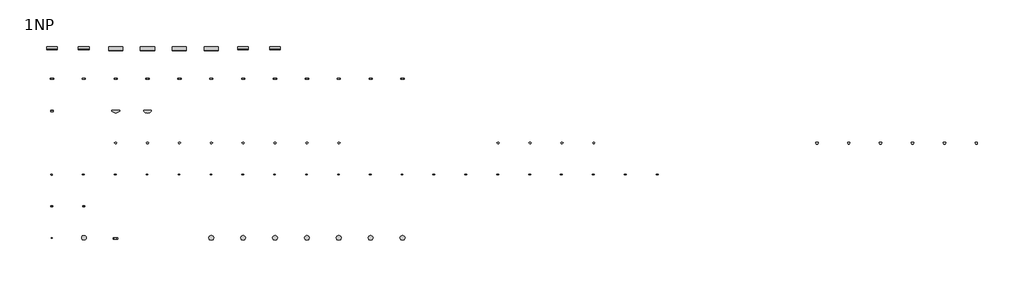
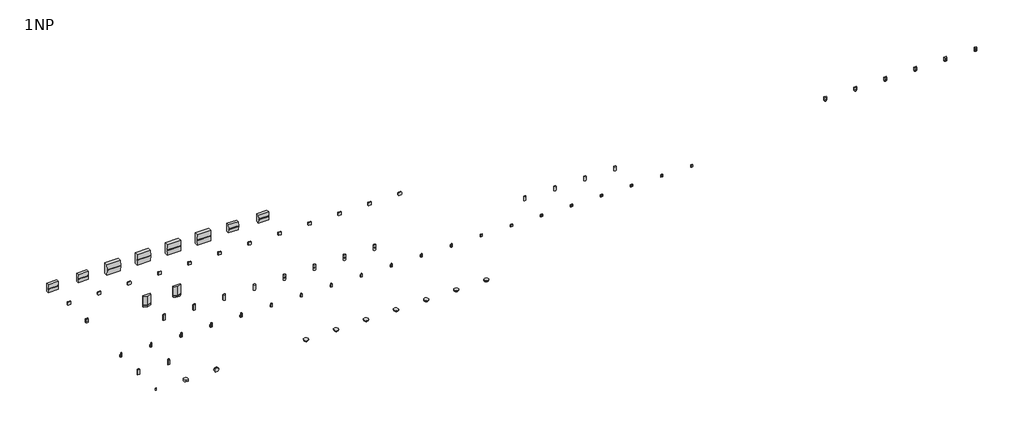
# One storey, incomplete: 61 proxies, 12 electric appliances.
"""IFC4 building model written with IfcOpenShell, lengths in millimetres."""

from ifc_helpers import new_model, si_unit, origin, place, context, project, spatial, transform, mapped, element, save
from components import ja_122pw_04791ad2, ja_122pb_a7b72314, ja_112p_35f2c3f1, electrical_equipment_dd4fa642, security_devices_6400f2da, security_devices_12a5800e, security_devices_a8dfe63a, ja_102kry_66e3460f, ja_110p_d42fbc9a, ja_110p_pet_71edda3a, ja_110st_ebcdd1e6, ja_111th_184f4ea3, ja_113a_4933cd80, ja_113m_4b11961d, ja_115m_564cd410, ja_121pw_7c5af470, ja_122e_b30d667c, ja_150m_5d9e9f14, ja_152shm_018121af, ja_154a_af2859ae, ja_154p_pet_a73beba8, ja_163a_e7fd9ec7, jb_111th_27b51d0b

model = new_model("IFC4")

# Units and contexts
model_context = context("Model", 3, world=origin())
ifc_project = project(units=[si_unit("LENGTHUNIT", "METRE", prefix="MILLI")], contexts=[model_context])

# Site, building, storey
site = spatial("IfcSite", under=ifc_project)
building = spatial("IfcBuilding", under=site)
storey = spatial("IfcBuildingStorey", under=building, Name="1NP", Elevation=0.0)

# Proxies
placement = place(None, origin())
ja_122pw_shape = ja_122pw_04791ad2(model_context)
element("IfcBuildingElementProxy", 1, Name="PIR detektory.CC : JA-162PW-AN", ObjectType="PIR detektory.CC : JA-162PW-AN", at=placement, inside=storey, context=model_context, shape_type="MappedRepresentation", body=[
    mapped(ja_122pw_shape, transform((1600.0, 2400.0, 0.0), x_axis=(1.0, 0.0, 0.0), y_axis=(0.0, 1.0, 0.0), z_axis=(0.0, 0.0, 1.0))),
])
element("IfcBuildingElementProxy", 2, Name="PIR detektory.CC : JA-122PW-AN", ObjectType="PIR detektory.CC : JA-122PW-AN", at=placement, inside=storey, context=model_context, shape_type="MappedRepresentation", body=[
    mapped(ja_122pw_shape, transform((3200.0, 2400.0, 0.0), x_axis=(1.0, 0.0, 0.0), y_axis=(0.0, 1.0, 0.0), z_axis=(0.0, 0.0, 1.0))),
])
ja_122pb_shape = ja_122pb_a7b72314(model_context)
element("IfcBuildingElementProxy", 3, Name="PIR detektory.CC : JA-162PB-AN", ObjectType="PIR detektory.CC : JA-162PB-AN", at=placement, inside=storey, context=model_context, shape_type="MappedRepresentation", body=[
    mapped(ja_122pb_shape, transform((4800.0, 2400.0, 0.0), x_axis=(1.0, 0.0, 0.0), y_axis=(0.0, 1.0, 0.0), z_axis=(0.0, 0.0, 1.0))),
])
element("IfcBuildingElementProxy", 4, Name="PIR detektory.CC : JA-122PB-AN", ObjectType="PIR detektory.CC : JA-122PB-AN", at=placement, inside=storey, context=model_context, shape_type="MappedRepresentation", body=[
    mapped(ja_122pb_shape, transform((6400.0, 2400.0, 0.0), x_axis=(1.0, 0.0, 0.0), y_axis=(0.0, 1.0, 0.0), z_axis=(0.0, 0.0, 1.0))),
])
ja_112p_shape = ja_112p_35f2c3f1(model_context)
element("IfcBuildingElementProxy", 5, Name="PIR detektory.CC : JA-152P-AN", ObjectType="PIR detektory.CC : JA-152P-AN", at=placement, inside=storey, context=model_context, shape_type="MappedRepresentation", body=[
    mapped(ja_112p_shape, transform((11200.0, 2400.0, 0.0), x_axis=(1.0, 0.0, 0.0), y_axis=(0.0, 1.0, 0.0), z_axis=(0.0, 0.0, 1.0))),
])
element("IfcBuildingElementProxy", 6, Name="PIR detektory.CC : JA-112P-AN", ObjectType="PIR detektory.CC : JA-112P-AN", at=placement, inside=storey, context=model_context, shape_type="MappedRepresentation", body=[
    mapped(ja_112p_shape, transform((12800.0, 2400.0, 0.0), x_axis=(1.0, 0.0, 0.0), y_axis=(0.0, 1.0, 0.0), z_axis=(0.0, 0.0, 1.0))),
])
electrical_equipment_shape = electrical_equipment_dd4fa642(model_context)
element("IfcBuildingElementProxy", 7, Name="Ústředny.CC : JA-103K-7AH", ObjectType="Ústředny.CC : JA-103K-7AH", at=placement, inside=storey, context=model_context, shape_type="MappedRepresentation", body=[
    mapped(electrical_equipment_shape, transform((4000.0, 4800.0, 0.0), x_axis=(1.0, 0.0, 0.0), y_axis=(0.0, 1.0, 0.0), z_axis=(0.0, 0.0, 1.0))),
])
security_devices_shape = security_devices_6400f2da(model_context)
element("IfcBuildingElementProxy", 8, Name="Environmentální detektory.CC : EI208W Horizontální", ObjectType="Environmentální detektory.CC : EI208W Horizontální", at=placement, inside=storey, context=model_context, shape_type="MappedRepresentation", body=[
    mapped(security_devices_shape, transform((800.0, 0.0, 0.0), x_axis=(1.0, 0.0, 0.0), y_axis=(0.0, 1.0, 0.0), z_axis=(0.0, 0.0, 1.0))),
])
security_devices_2_shape = security_devices_12a5800e(model_context)
element("IfcBuildingElementProxy", 9, Name="Environmentální detektory.CC : EI208W Vertikální", ObjectType="Environmentální detektory.CC : EI208W Vertikální", at=placement, inside=storey, context=model_context, shape_type="MappedRepresentation", body=[
    mapped(security_devices_2_shape, transform((1600.0, 0.0, 0.0), x_axis=(1.0, 0.0, 0.0), y_axis=(0.0, 1.0, 0.0), z_axis=(0.0, 0.0, 1.0))),
])
security_devices_3_shape = security_devices_a8dfe63a(model_context)
element("IfcBuildingElementProxy", 10, Name="Environmentální detektory.CC : JA-151ST-A-AN", ObjectType="Environmentální detektory.CC : JA-151ST-A-AN", at=placement, inside=storey, context=model_context, shape_type="MappedRepresentation", body=[
    mapped(security_devices_3_shape, transform((6400.0, 0.0, 0.0), x_axis=(1.0, 0.0, 0.0), y_axis=(0.0, 1.0, 0.0), z_axis=(0.0, 0.0, 1.0))),
])
element("IfcBuildingElementProxy", 11, Name="Environmentální detektory.CC : JA-151ST-A", ObjectType="Environmentální detektory.CC : JA-151ST-A", at=placement, inside=storey, context=model_context, shape_type="MappedRepresentation", body=[
    mapped(security_devices_3_shape, transform((7200.0, 0.0, 0.0), x_axis=(1.0, 0.0, 0.0), y_axis=(0.0, 1.0, 0.0), z_axis=(0.0, 0.0, 1.0))),
])
element("IfcBuildingElementProxy", 12, Name="Environmentální detektory.CC : JA-111ST-A-AN", ObjectType="Environmentální detektory.CC : JA-111ST-A-AN", at=placement, inside=storey, context=model_context, shape_type="MappedRepresentation", body=[
    mapped(security_devices_3_shape, transform((8000.0, 0.0, 0.0), x_axis=(1.0, 0.0, 0.0), y_axis=(0.0, 1.0, 0.0), z_axis=(0.0, 0.0, 1.0))),
])
element("IfcBuildingElementProxy", 13, Name="Environmentální detektory.CC : JA-111ST-A", ObjectType="Environmentální detektory.CC : JA-111ST-A", at=placement, inside=storey, context=model_context, shape_type="MappedRepresentation", body=[
    mapped(security_devices_3_shape, transform((8800.0, 0.0, 0.0), x_axis=(1.0, 0.0, 0.0), y_axis=(0.0, 1.0, 0.0), z_axis=(0.0, 0.0, 1.0))),
])
ja_102kry_shape = ja_102kry_66e3460f(model_context)
element("IfcBuildingElementProxy", 14, Name="Ústředny.CC : JA-102KRY", ObjectType="Ústředny.CC : JA-102KRY", at=placement, inside=storey, context=model_context, shape_type="MappedRepresentation", body=[
    mapped(ja_102kry_shape, transform((0.0, 4800.0, 0.0), x_axis=(1.0, 0.0, 0.0), y_axis=(0.0, 1.0, 0.0), z_axis=(0.0, 0.0, 1.0))),
])
element("IfcBuildingElementProxy", 15, Name="Ústředny.CC : JA-102KY", ObjectType="Ústředny.CC : JA-102KY", at=placement, inside=storey, context=model_context, shape_type="MappedRepresentation", body=[
    mapped(ja_102kry_shape, transform((800.0, 4800.0, 0.0), x_axis=(1.0, 0.0, 0.0), y_axis=(0.0, 1.0, 0.0), z_axis=(0.0, 0.0, 1.0))),
])
element("IfcBuildingElementProxy", 16, Name="Ústředny.CC : JA-103K", ObjectType="Ústředny.CC : JA-103K", at=placement, inside=storey, context=model_context, shape_type="MappedRepresentation", body=[
    mapped(ja_102kry_shape, transform((5600.0, 4800.0, 0.0), x_axis=(1.0, 0.0, 0.0), y_axis=(0.0, 1.0, 0.0), z_axis=(0.0, 0.0, 1.0))),
])
element("IfcBuildingElementProxy", 17, Name="Ústředny.CC : JA-103KR", ObjectType="Ústředny.CC : JA-103KR", at=placement, inside=storey, context=model_context, shape_type="MappedRepresentation", body=[
    mapped(ja_102kry_shape, transform((4800.0, 4800.0, 0.0), x_axis=(1.0, 0.0, 0.0), y_axis=(0.0, 1.0, 0.0), z_axis=(0.0, 0.0, 1.0))),
])
element("IfcBuildingElementProxy", 18, Name="Ústředny.CC : JA-107K", ObjectType="Ústředny.CC : JA-107K", at=placement, inside=storey, context=model_context, shape_type="MappedRepresentation", body=[
    mapped(electrical_equipment_shape, transform((3200.0, 4800.0, 0.0), x_axis=(1.0, 0.0, 0.0), y_axis=(0.0, 1.0, 0.0), z_axis=(0.0, 0.0, 1.0))),
])
element("IfcBuildingElementProxy", 19, Name="Ústředny.CC : JA-107KR", ObjectType="Ústředny.CC : JA-107KR", at=placement, inside=storey, context=model_context, shape_type="MappedRepresentation", body=[
    mapped(electrical_equipment_shape, transform((2400.0, 4800.0, 0.0), x_axis=(1.0, 0.0, 0.0), y_axis=(0.0, 1.0, 0.0), z_axis=(0.0, 0.0, 1.0))),
])
element("IfcBuildingElementProxy", 20, Name="Ústředny.CC : JA-108K", ObjectType="Ústředny.CC : JA-108K", at=placement, inside=storey, context=model_context, shape_type="MappedRepresentation", body=[
    mapped(electrical_equipment_shape, transform((1600.0, 4800.0, 0.0), x_axis=(1.0, 0.0, 0.0), y_axis=(0.0, 1.0, 0.0), z_axis=(0.0, 0.0, 1.0))),
])
ja_110p_shape = ja_110p_d42fbc9a(model_context)
element("IfcBuildingElementProxy", 21, Name="PIR detektory.CC : JA-110P", ObjectType="PIR detektory.CC : JA-110P", at=placement, inside=storey, context=model_context, shape_type="MappedRepresentation", body=[
    mapped(ja_110p_shape, transform((23200.0, 2400.0, 0.0), x_axis=(1.0, 0.0, 0.0), y_axis=(0.0, 1.0, 0.0), z_axis=(0.0, 0.0, 1.0))),
])
ja_110p_pet_shape = ja_110p_pet_71edda3a(model_context)
element("IfcBuildingElementProxy", 22, Name="PIR detektory.CC : JA-110P PET", ObjectType="PIR detektory.CC : JA-110P PET", at=placement, inside=storey, context=model_context, shape_type="MappedRepresentation", body=[
    mapped(ja_110p_pet_shape, transform((22400.0, 2400.0, 0.0), x_axis=(1.0, 0.0, 0.0), y_axis=(0.0, 1.0, 0.0), z_axis=(0.0, 0.0, 1.0))),
])
ja_110st_shape = ja_110st_ebcdd1e6(model_context)
element("IfcBuildingElementProxy", 23, Name="Environmentální detektory.CC : JA-110ST", ObjectType="Environmentální detektory.CC : JA-110ST", at=placement, inside=storey, context=model_context, shape_type="MappedRepresentation", body=[
    mapped(ja_110st_shape, transform((4800.0, 0.0, 0.0), x_axis=(1.0, 0.0, 0.0), y_axis=(0.0, 1.0, 0.0), z_axis=(0.0, 0.0, 1.0))),
])
ja_111th_shape = ja_111th_184f4ea3(model_context)
element("IfcBuildingElementProxy", 24, Name="Environmentální detektory.CC : JA-111TH", ObjectType="Environmentální detektory.CC : JA-111TH", at=placement, inside=storey, context=model_context, shape_type="MappedRepresentation", body=[
    mapped(ja_111th_shape, transform((0.0, 0.0, 0.0), x_axis=(1.0, 0.0, 0.0), y_axis=(0.0, 1.0, 0.0), z_axis=(0.0, 0.0, 1.0))),
])
element("IfcBuildingElementProxy", 25, Name="PIR detektory.CC : JA-112P", ObjectType="PIR detektory.CC : JA-112P", at=placement, inside=storey, context=model_context, shape_type="MappedRepresentation", body=[
    mapped(ja_112p_shape, transform((13600.0, 2400.0, 0.0), x_axis=(1.0, 0.0, 0.0), y_axis=(0.0, 1.0, 0.0), z_axis=(0.0, 0.0, 1.0))),
])
ja_113a_shape = ja_113a_4933cd80(model_context)
element("IfcBuildingElementProxy", 26, Name="Sirény.CC : JA-113A", ObjectType="Sirény.CC : JA-113A", at=placement, inside=storey, context=model_context, shape_type="MappedRepresentation", body=[
    mapped(ja_113a_shape, transform((2400.0, 3200.0, 0.0), x_axis=(1.0, 0.0, 0.0), y_axis=(0.0, 1.0, 0.0), z_axis=(0.0, 0.0, 1.0))),
])
ja_113m_shape = ja_113m_4b11961d(model_context)
element("IfcBuildingElementProxy", 27, Name="MG detektory.CC : JA-113M", ObjectType="MG detektory.CC : JA-113M", at=placement, inside=storey, context=model_context, shape_type="MappedRepresentation", body=[
    mapped(ja_113m_shape, transform((8800.0, 1600.0, 0.0), x_axis=(1.0, 0.0, 0.0), y_axis=(0.0, 1.0, 0.0), z_axis=(0.0, 0.0, 1.0))),
])
element("IfcBuildingElementProxy", 28, Name="MG detektory.CC : JA-113M-AN", ObjectType="MG detektory.CC : JA-113M-AN", at=placement, inside=storey, context=model_context, shape_type="MappedRepresentation", body=[
    mapped(ja_113m_shape, transform((7200.0, 1600.0, 0.0), x_axis=(1.0, 0.0, 0.0), y_axis=(0.0, 1.0, 0.0), z_axis=(0.0, 0.0, 1.0))),
])
element("IfcBuildingElementProxy", 29, Name="MG detektory.CC : JA-113M-GR", ObjectType="MG detektory.CC : JA-113M-GR", at=placement, inside=storey, context=model_context, shape_type="MappedRepresentation", body=[
    mapped(ja_113m_shape, transform((8000.0, 1600.0, 0.0), x_axis=(1.0, 0.0, 0.0), y_axis=(0.0, 1.0, 0.0), z_axis=(0.0, 0.0, 1.0))),
])
ja_115m_shape = ja_115m_564cd410(model_context)
element("IfcBuildingElementProxy", 30, Name="MG detektory.CC : JA-115M", ObjectType="MG detektory.CC : JA-115M", at=placement, inside=storey, context=model_context, shape_type="MappedRepresentation", body=[
    mapped(ja_115m_shape, transform((15200.0, 1600.0, 0.0), x_axis=(1.0, 0.0, 0.0), y_axis=(0.0, 1.0, 0.0), z_axis=(0.0, 0.0, 1.0))),
])
element("IfcBuildingElementProxy", 31, Name="MG detektory.CC : JA-115M-AN", ObjectType="MG detektory.CC : JA-115M-AN", at=placement, inside=storey, context=model_context, shape_type="MappedRepresentation", body=[
    mapped(ja_115m_shape, transform((13600.0, 1600.0, 0.0), x_axis=(1.0, 0.0, 0.0), y_axis=(0.0, 1.0, 0.0), z_axis=(0.0, 0.0, 1.0))),
])
element("IfcBuildingElementProxy", 32, Name="MG detektory.CC : JA-115M-BR", ObjectType="MG detektory.CC : JA-115M-BR", at=placement, inside=storey, context=model_context, shape_type="MappedRepresentation", body=[
    mapped(ja_115m_shape, transform((12800.0, 1600.0, 0.0), x_axis=(1.0, 0.0, 0.0), y_axis=(0.0, 1.0, 0.0), z_axis=(0.0, 0.0, 1.0))),
])
element("IfcBuildingElementProxy", 33, Name="MG detektory.CC : JA-115M-GR", ObjectType="MG detektory.CC : JA-115M-GR", at=placement, inside=storey, context=model_context, shape_type="MappedRepresentation", body=[
    mapped(ja_115m_shape, transform((14400.0, 1600.0, 0.0), x_axis=(1.0, 0.0, 0.0), y_axis=(0.0, 1.0, 0.0), z_axis=(0.0, 0.0, 1.0))),
])
ja_121pw_shape = ja_121pw_7c5af470(model_context)
element("IfcBuildingElementProxy", 34, Name="PIR detektory.CC : JA-121PW", ObjectType="PIR detektory.CC : JA-121PW", at=placement, inside=storey, context=model_context, shape_type="MappedRepresentation", body=[
    mapped(ja_121pw_shape, transform((20000.0, 2400.0, 0.0), x_axis=(1.0, 0.0, 0.0), y_axis=(0.0, 1.0, 0.0), z_axis=(0.0, 0.0, 1.0))),
])
ja_122e_shape = ja_122e_b30d667c(model_context)
element("IfcBuildingElementProxy", 35, Name="Klávesnice.CC : JA-122E", ObjectType="Klávesnice.CC : JA-122E", at=placement, inside=storey, context=model_context, shape_type="MappedRepresentation", body=[
    mapped(ja_122e_shape, transform((0.0, 800.0, 0.0), x_axis=(1.0, 0.0, 0.0), y_axis=(0.0, 1.0, 0.0), z_axis=(0.0, 0.0, 1.0))),
])
element("IfcBuildingElementProxy", 36, Name="PIR detektory.CC : JA-122PB", ObjectType="PIR detektory.CC : JA-122PB", at=placement, inside=storey, context=model_context, shape_type="MappedRepresentation", body=[
    mapped(ja_122pb_shape, transform((7200.0, 2400.0, 0.0), x_axis=(1.0, 0.0, 0.0), y_axis=(0.0, 1.0, 0.0), z_axis=(0.0, 0.0, 1.0))),
])
element("IfcBuildingElementProxy", 37, Name="PIR detektory.CC : JA-122PW", ObjectType="PIR detektory.CC : JA-122PW", at=placement, inside=storey, context=model_context, shape_type="MappedRepresentation", body=[
    mapped(ja_122pw_shape, transform((4000.0, 2400.0, 0.0), x_axis=(1.0, 0.0, 0.0), y_axis=(0.0, 1.0, 0.0), z_axis=(0.0, 0.0, 1.0))),
])
element("IfcBuildingElementProxy", 38, Name="Klávesnice.CC : JA-123E", ObjectType="Klávesnice.CC : JA-123E", at=placement, inside=storey, context=model_context, shape_type="MappedRepresentation", body=[
    mapped(ja_122e_shape, transform((800.0, 800.0, 0.0), x_axis=(1.0, 0.0, 0.0), y_axis=(0.0, 1.0, 0.0), z_axis=(0.0, 0.0, 1.0))),
])
ja_150m_shape = ja_150m_5d9e9f14(model_context)
element("IfcBuildingElementProxy", 39, Name="MG detektory.CC : JA-150M", ObjectType="MG detektory.CC : JA-150M", at=placement, inside=storey, context=model_context, shape_type="MappedRepresentation", body=[
    mapped(ja_150m_shape, transform((3200.0, 1600.0, 0.0), x_axis=(1.0, 0.0, 0.0), y_axis=(0.0, 1.0, 0.0), z_axis=(0.0, 0.0, 1.0))),
])
element("IfcBuildingElementProxy", 40, Name="MG detektory.CC : JA-150M-AN", ObjectType="MG detektory.CC : JA-150M-AN", at=placement, inside=storey, context=model_context, shape_type="MappedRepresentation", body=[
    mapped(ja_150m_shape, transform((1600.0, 1600.0, 0.0), x_axis=(1.0, 0.0, 0.0), y_axis=(0.0, 1.0, 0.0), z_axis=(0.0, 0.0, 1.0))),
])
element("IfcBuildingElementProxy", 41, Name="MG detektory.CC : JA-150M-GR", ObjectType="MG detektory.CC : JA-150M-GR", at=placement, inside=storey, context=model_context, shape_type="MappedRepresentation", body=[
    mapped(ja_150m_shape, transform((2400.0, 1600.0, 0.0), x_axis=(1.0, 0.0, 0.0), y_axis=(0.0, 1.0, 0.0), z_axis=(0.0, 0.0, 1.0))),
])
element("IfcBuildingElementProxy", 42, Name="MG detektory.CC : JA-150MB", ObjectType="MG detektory.CC : JA-150MB", at=placement, inside=storey, context=model_context, shape_type="MappedRepresentation", body=[
    mapped(ja_150m_shape, transform((800.0, 1600.0, 0.0), x_axis=(1.0, 0.0, 0.0), y_axis=(0.0, 1.0, 0.0), z_axis=(0.0, 0.0, 1.0))),
])
element("IfcBuildingElementProxy", 43, Name="Environmentální detektory.CC : JA-150ST", ObjectType="Environmentální detektory.CC : JA-150ST", at=placement, inside=storey, context=model_context, shape_type="MappedRepresentation", body=[
    mapped(ja_110st_shape, transform((4000.0, 0.0, 0.0), x_axis=(1.0, 0.0, 0.0), y_axis=(0.0, 1.0, 0.0), z_axis=(0.0, 0.0, 1.0))),
])
element("IfcBuildingElementProxy", 44, Name="Environmentální detektory.CC : JA-151ST", ObjectType="Environmentální detektory.CC : JA-151ST", at=placement, inside=storey, context=model_context, shape_type="MappedRepresentation", body=[
    mapped(ja_110st_shape, transform((5600.0, 0.0, 0.0), x_axis=(1.0, 0.0, 0.0), y_axis=(0.0, 1.0, 0.0), z_axis=(0.0, 0.0, 1.0))),
])
element("IfcBuildingElementProxy", 45, Name="PIR detektory.CC : JA-152P", ObjectType="PIR detektory.CC : JA-152P", at=placement, inside=storey, context=model_context, shape_type="MappedRepresentation", body=[
    mapped(ja_112p_shape, transform((12000.0, 2400.0, 0.0), x_axis=(1.0, 0.0, 0.0), y_axis=(0.0, 1.0, 0.0), z_axis=(0.0, 0.0, 1.0))),
])
ja_152shm_shape = ja_152shm_018121af(model_context)
element("IfcBuildingElementProxy", 46, Name="MG detektory.CC : JA-152SHM", ObjectType="MG detektory.CC : JA-152SHM", at=placement, inside=storey, context=model_context, shape_type="MappedRepresentation", body=[
    mapped(ja_152shm_shape, transform((0.0, 1600.0, 0.0), x_axis=(1.0, 0.0, 0.0), y_axis=(0.0, 1.0, 0.0), z_axis=(0.0, 0.0, 1.0))),
])
element("IfcBuildingElementProxy", 47, Name="MG detektory.CC : JA-153M", ObjectType="MG detektory.CC : JA-153M", at=placement, inside=storey, context=model_context, shape_type="MappedRepresentation", body=[
    mapped(ja_113m_shape, transform((6400.0, 1600.0, 0.0), x_axis=(1.0, 0.0, 0.0), y_axis=(0.0, 1.0, 0.0), z_axis=(0.0, 0.0, 1.0))),
])
element("IfcBuildingElementProxy", 48, Name="MG detektory.CC : JA-153M-AN", ObjectType="MG detektory.CC : JA-153M-AN", at=placement, inside=storey, context=model_context, shape_type="MappedRepresentation", body=[
    mapped(ja_113m_shape, transform((4800.0, 1600.0, 0.0), x_axis=(1.0, 0.0, 0.0), y_axis=(0.0, 1.0, 0.0), z_axis=(0.0, 0.0, 1.0))),
])
element("IfcBuildingElementProxy", 49, Name="MG detektory.CC : JA-153M-BR", ObjectType="MG detektory.CC : JA-153M-BR", at=placement, inside=storey, context=model_context, shape_type="MappedRepresentation", body=[
    mapped(ja_113m_shape, transform((4000.0, 1600.0, 0.0), x_axis=(1.0, 0.0, 0.0), y_axis=(0.0, 1.0, 0.0), z_axis=(0.0, 0.0, 1.0))),
])
element("IfcBuildingElementProxy", 50, Name="MG detektory.CC : JA-153M-GR", ObjectType="MG detektory.CC : JA-153M-GR", at=placement, inside=storey, context=model_context, shape_type="MappedRepresentation", body=[
    mapped(ja_113m_shape, transform((5600.0, 1600.0, 0.0), x_axis=(1.0, 0.0, 0.0), y_axis=(0.0, 1.0, 0.0), z_axis=(0.0, 0.0, 1.0))),
])
ja_154a_shape = ja_154a_af2859ae(model_context)
element("IfcBuildingElementProxy", 51, Name="Sirény.CC : JA-154A", ObjectType="Sirény.CC : JA-154A", at=placement, inside=storey, context=model_context, shape_type="MappedRepresentation", body=[
    mapped(ja_154a_shape, transform((0.0, 3200.0, 0.0), x_axis=(1.0, 0.0, 0.0), y_axis=(0.0, 1.0, 0.0), z_axis=(0.0, 0.0, 1.0))),
])
ja_154p_pet_shape = ja_154p_pet_a73beba8(model_context)
element("IfcBuildingElementProxy", 52, Name="PIR detektory.CC : JA-154P", ObjectType="PIR detektory.CC : JA-154P", at=placement, inside=storey, context=model_context, shape_type="MappedRepresentation", body=[
    mapped(ja_154p_pet_shape, transform((21600.0, 2400.0, 0.0), x_axis=(1.0, 0.0, 0.0), y_axis=(0.0, 1.0, 0.0), z_axis=(0.0, 0.0, 1.0))),
])
element("IfcBuildingElementProxy", 53, Name="PIR detektory.CC : JA-154P PET", ObjectType="PIR detektory.CC : JA-154P PET", at=placement, inside=storey, context=model_context, shape_type="MappedRepresentation", body=[
    mapped(ja_154p_pet_shape, transform((20800.0, 2400.0, 0.0), x_axis=(1.0, 0.0, 0.0), y_axis=(0.0, 1.0, 0.0), z_axis=(0.0, 0.0, 1.0))),
])
element("IfcBuildingElementProxy", 54, Name="MG detektory.CC : JA-155M", ObjectType="MG detektory.CC : JA-155M", at=placement, inside=storey, context=model_context, shape_type="MappedRepresentation", body=[
    mapped(ja_115m_shape, transform((12000.0, 1600.0, 0.0), x_axis=(1.0, 0.0, 0.0), y_axis=(0.0, 1.0, 0.0), z_axis=(0.0, 0.0, 1.0))),
])
element("IfcBuildingElementProxy", 55, Name="MG detektory.CC : JA-155M-AN", ObjectType="MG detektory.CC : JA-155M-AN", at=placement, inside=storey, context=model_context, shape_type="MappedRepresentation", body=[
    mapped(ja_115m_shape, transform((10400.0, 1600.0, 0.0), x_axis=(1.0, 0.0, 0.0), y_axis=(0.0, 1.0, 0.0), z_axis=(0.0, 0.0, 1.0))),
])
element("IfcBuildingElementProxy", 56, Name="MG detektory.CC : JA-155M-BR", ObjectType="MG detektory.CC : JA-155M-BR", at=placement, inside=storey, context=model_context, shape_type="MappedRepresentation", body=[
    mapped(ja_115m_shape, transform((9600.0, 1600.0, 0.0), x_axis=(1.0, 0.0, 0.0), y_axis=(0.0, 1.0, 0.0), z_axis=(0.0, 0.0, 1.0))),
])
element("IfcBuildingElementProxy", 57, Name="MG detektory.CC : JA-155M-GR", ObjectType="MG detektory.CC : JA-155M-GR", at=placement, inside=storey, context=model_context, shape_type="MappedRepresentation", body=[
    mapped(ja_115m_shape, transform((11200.0, 1600.0, 0.0), x_axis=(1.0, 0.0, 0.0), y_axis=(0.0, 1.0, 0.0), z_axis=(0.0, 0.0, 1.0))),
])
element("IfcBuildingElementProxy", 58, Name="PIR detektory.CC : JA-161PW", ObjectType="PIR detektory.CC : JA-161PW", at=placement, inside=storey, context=model_context, shape_type="MappedRepresentation", body=[
    mapped(ja_121pw_shape, transform((19200.0, 2400.0, 0.0), x_axis=(1.0, 0.0, 0.0), y_axis=(0.0, 1.0, 0.0), z_axis=(0.0, 0.0, 1.0))),
])
element("IfcBuildingElementProxy", 59, Name="PIR detektory.CC : JA-162PB", ObjectType="PIR detektory.CC : JA-162PB", at=placement, inside=storey, context=model_context, shape_type="MappedRepresentation", body=[
    mapped(ja_122pb_shape, transform((5600.0, 2400.0, 0.0), x_axis=(1.0, 0.0, 0.0), y_axis=(0.0, 1.0, 0.0), z_axis=(0.0, 0.0, 1.0))),
])
element("IfcBuildingElementProxy", 60, Name="PIR detektory.CC : JA-162PW", ObjectType="PIR detektory.CC : JA-162PW", at=placement, inside=storey, context=model_context, shape_type="MappedRepresentation", body=[
    mapped(ja_122pw_shape, transform((2400.0, 2400.0, 0.0), x_axis=(1.0, 0.0, 0.0), y_axis=(0.0, 1.0, 0.0), z_axis=(0.0, 0.0, 1.0))),
])
ja_163a_shape = ja_163a_e7fd9ec7(model_context)
element("IfcBuildingElementProxy", 61, Name="Sirény.CC : JA-163A", ObjectType="Sirény.CC : JA-163A", at=placement, inside=storey, context=model_context, shape_type="MappedRepresentation", body=[
    mapped(ja_163a_shape, transform((1600.0, 3200.0, 0.0), x_axis=(1.0, 0.0, 0.0), y_axis=(0.0, 1.0, 0.0), z_axis=(0.0, 0.0, 1.0))),
])

# Electric appliances
jb_111th_shape = jb_111th_27b51d0b(model_context)
element("IfcElectricAppliance", 62, ObjectType="Termostaty.CC : JB-151TH-AN", at=placement, inside=storey, context=model_context, shape_type="MappedRepresentation", body=[
    mapped(jb_111th_shape, transform((0.0, 4000.0, 0.0), x_axis=(1.0, 0.0, 0.0), y_axis=(0.0, 1.0, 0.0), z_axis=(0.0, 0.0, 1.0))),
])
element("IfcElectricAppliance", 63, ObjectType="Termostaty.CC : JB-151TP-AN", at=placement, inside=storey, context=model_context, shape_type="MappedRepresentation", body=[
    mapped(jb_111th_shape, transform((1600.0, 4000.0, 0.0), x_axis=(1.0, 0.0, 0.0), y_axis=(0.0, 1.0, 0.0), z_axis=(0.0, 0.0, 1.0))),
])
element("IfcElectricAppliance", 64, ObjectType="Termostaty.CC : JB-112TH-AN", at=placement, inside=storey, context=model_context, shape_type="MappedRepresentation", body=[
    mapped(jb_111th_shape, transform((3200.0, 4000.0, 0.0), x_axis=(1.0, 0.0, 0.0), y_axis=(0.0, 1.0, 0.0), z_axis=(0.0, 0.0, 1.0))),
])
element("IfcElectricAppliance", 65, ObjectType="Termostaty.CC : JB-112TP-AN", at=placement, inside=storey, context=model_context, shape_type="MappedRepresentation", body=[
    mapped(jb_111th_shape, transform((4800.0, 4000.0, 0.0), x_axis=(1.0, 0.0, 0.0), y_axis=(0.0, 1.0, 0.0), z_axis=(0.0, 0.0, 1.0))),
])
element("IfcElectricAppliance", 66, ObjectType="Termostaty.CC : JB-111TH-AN", at=placement, inside=storey, context=model_context, shape_type="MappedRepresentation", body=[
    mapped(jb_111th_shape, transform((6400.0, 4000.0, 0.0), x_axis=(1.0, 0.0, 0.0), y_axis=(0.0, 1.0, 0.0), z_axis=(0.0, 0.0, 1.0))),
])
element("IfcElectricAppliance", 67, ObjectType="Termostaty.CC : JB-111TP-AN", at=placement, inside=storey, context=model_context, shape_type="MappedRepresentation", body=[
    mapped(jb_111th_shape, transform((8000.0, 4000.0, 0.0), x_axis=(1.0, 0.0, 0.0), y_axis=(0.0, 1.0, 0.0), z_axis=(0.0, 0.0, 1.0))),
])
element("IfcElectricAppliance", 68, ObjectType="Termostaty.CC : JB-111TH", at=placement, inside=storey, context=model_context, shape_type="MappedRepresentation", body=[
    mapped(jb_111th_shape, transform((7200.0, 4000.0, 0.0), x_axis=(1.0, 0.0, 0.0), y_axis=(0.0, 1.0, 0.0), z_axis=(0.0, 0.0, 1.0))),
])
element("IfcElectricAppliance", 69, ObjectType="Termostaty.CC : JB-111TP", at=placement, inside=storey, context=model_context, shape_type="MappedRepresentation", body=[
    mapped(jb_111th_shape, transform((8800.0, 4000.0, 0.0), x_axis=(1.0, 0.0, 0.0), y_axis=(0.0, 1.0, 0.0), z_axis=(0.0, 0.0, 1.0))),
])
element("IfcElectricAppliance", 70, ObjectType="Termostaty.CC : JB-112TH", at=placement, inside=storey, context=model_context, shape_type="MappedRepresentation", body=[
    mapped(jb_111th_shape, transform((4000.0, 4000.0, 0.0), x_axis=(1.0, 0.0, 0.0), y_axis=(0.0, 1.0, 0.0), z_axis=(0.0, 0.0, 1.0))),
])
element("IfcElectricAppliance", 71, ObjectType="Termostaty.CC : JB-112TP", at=placement, inside=storey, context=model_context, shape_type="MappedRepresentation", body=[
    mapped(jb_111th_shape, transform((5600.0, 4000.0, 0.0), x_axis=(1.0, 0.0, 0.0), y_axis=(0.0, 1.0, 0.0), z_axis=(0.0, 0.0, 1.0))),
])
element("IfcElectricAppliance", 72, ObjectType="Termostaty.CC : JB-151TH", at=placement, inside=storey, context=model_context, shape_type="MappedRepresentation", body=[
    mapped(jb_111th_shape, transform((800.0, 4000.0, 0.0), x_axis=(1.0, 0.0, 0.0), y_axis=(0.0, 1.0, 0.0), z_axis=(0.0, 0.0, 1.0))),
])
element("IfcElectricAppliance", 73, ObjectType="Termostaty.CC : JB-151TP", at=placement, inside=storey, context=model_context, shape_type="MappedRepresentation", body=[
    mapped(jb_111th_shape, transform((2400.0, 4000.0, 0.0), x_axis=(1.0, 0.0, 0.0), y_axis=(0.0, 1.0, 0.0), z_axis=(0.0, 0.0, 1.0))),
])

save(model, "model.ifc")
